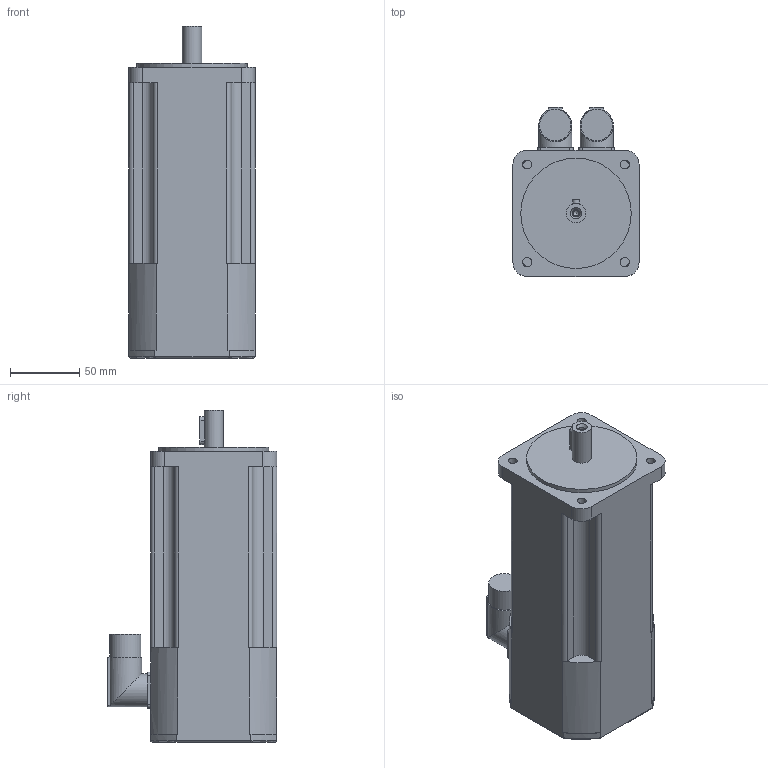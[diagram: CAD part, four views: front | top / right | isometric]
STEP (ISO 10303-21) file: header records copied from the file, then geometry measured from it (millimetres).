
FILE_DESCRIPTION(/* description */ (''),/* implementation_level */ '2;1');
FILE_NAME(/* name */ '\\Lafnas01\disegni\Archivi Lafert\3D\CAD 3D\MODELLI\Assiemi clienti\Serad\Modelli 3D Serad\B56I\Encoder\Enc Without Brake\B5601Ixx6ARx2033.ipt.stp',/* time_stamp */ '2015-09-07T10:49:54+02:00',/* author */ ('Pastrello Ylenia'),/* organization */ (''),/* preprocessor_version */ 'ST-DEVELOPER v15.6',/* originating_system */ 'Autodesk Inventor 2015',/* authorisation */ '');
FILE_SCHEMA (('AUTOMOTIVE_DESIGN { 1 0 10303 214 3 1 1 }'));
Length unit declared in the file: millimetre
Products named in the file (1): B5601Ixx6ARx2033
Bounding box: 91.3 x 122.8 x 240.5 mm (x, y, z)
Volume: 1627366.5 mm3; surface area: 100320.1 mm2
Topology: 1 solids, 1 shells, 133 faces, 339 edges, 215 vertices
Faces by surface type: plane 74, cylinder 52, torus 4, cone 3
Full cylindrical faces by diameter (mm): 4.134 x1, 5.3 x1, 6.5 x4, 14 x1, 22.7 x2, 24 x2, 80 x1
Entity records: 4088 total; most frequent: CARTESIAN_POINT 804, DIRECTION 726, ORIENTED_EDGE 640, EDGE_CURVE 320, AXIS2_PLACEMENT_3D 282, VERTEX_POINT 212, EDGE_LOOP 164, LINE 162
